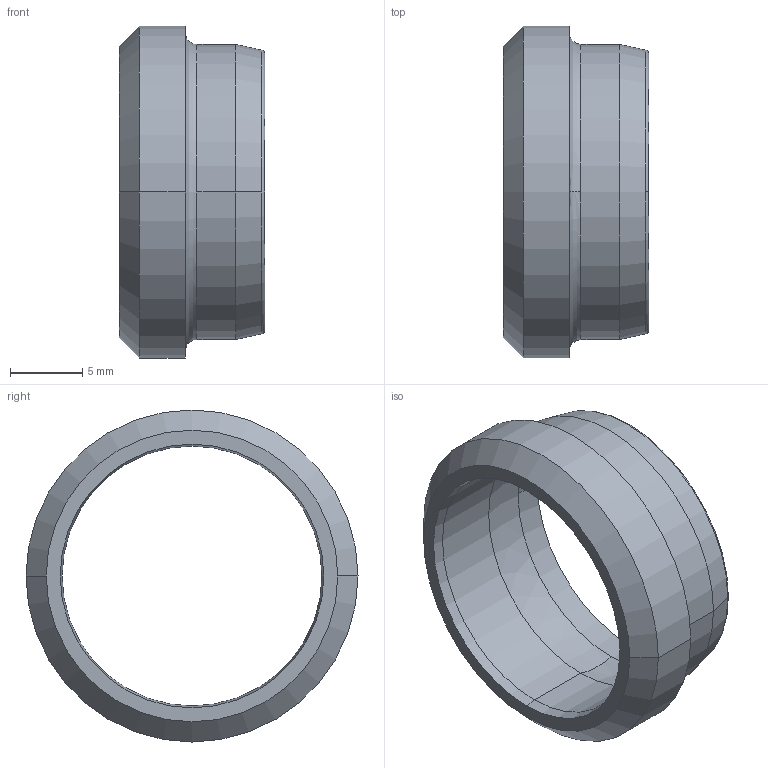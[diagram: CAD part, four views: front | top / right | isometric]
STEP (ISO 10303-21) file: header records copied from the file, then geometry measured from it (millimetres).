
FILE_DESCRIPTION((''),'2;1');
FILE_NAME('100109.stp','2006-03-06T15:07:22',('Dario Falcomer'),('CAST S.p.A.'),'AutoCAD STEP 2000i','AutoCAD 2000i',', , ');
FILE_SCHEMA(('CONFIG_CONTROL_DESIGN'));
Length unit declared in the file: millimetre
Products named in the file (2): 100109.0; 1001ESTERNO#0
Assembly tree (1 placements, depth 2):
  100109.0
    1001ESTERNO#0
Bounding box: 10.07 x 23 x 23 mm (x, y, z)
Volume: 998.3 mm3; surface area: 1480.3 mm2
Topology: 1 solids, 1 shells, 28 faces, 67 edges, 43 vertices
Faces by surface type: bspline 8, cone 8, cylinder 6, plane 4, torus 2
Entity records: 1241 total; most frequent: CARTESIAN_POINT 456, DIRECTION 164, ORIENTED_EDGE 134, AXIS2_PLACEMENT_3D 75, EDGE_CURVE 67, CIRCLE 53, VERTEX_POINT 43, EDGE_LOOP 32
